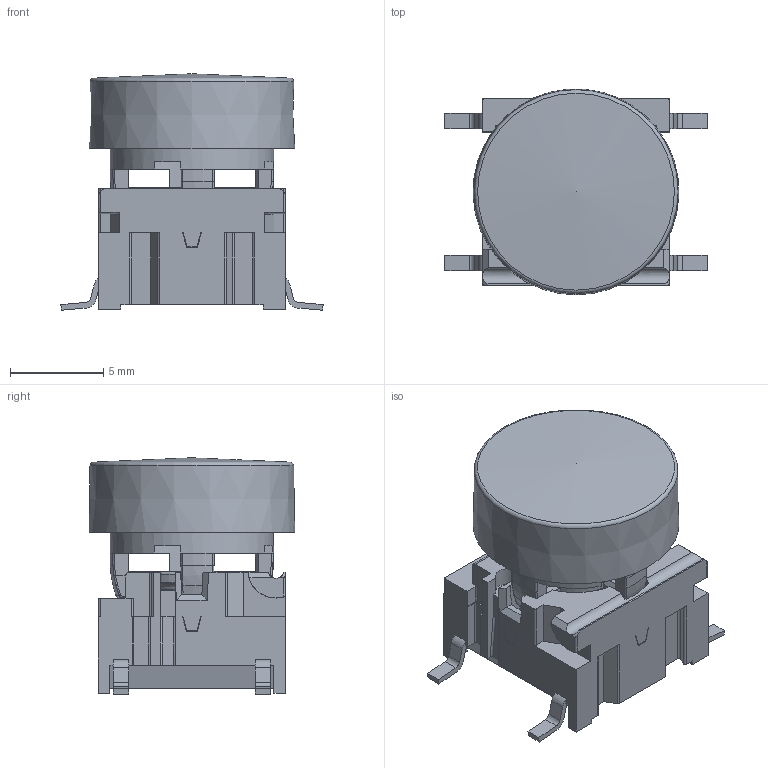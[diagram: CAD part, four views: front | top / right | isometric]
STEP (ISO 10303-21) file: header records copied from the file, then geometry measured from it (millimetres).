
FILE_DESCRIPTION(/* description */ (''),/* implementation_level */ '2;1');
FILE_NAME(/* name */ 'C:\Users\cgh.MEC\Desktop\Traceparts - 3D programserie\STEP filer\SMD\5GSH9+1GAS.stp',/* time_stamp */ '2016-02-16T13:29:04+01:00',/* author */ ('cgh'),/* organization */ (''),/* preprocessor_version */ 'ST-DEVELOPER v15.2',/* originating_system */ 'Autodesk Inventor 2014',/* authorisation */ '');
FILE_SCHEMA (('AUTOMOTIVE_DESIGN { 1 0 10303 214 3 1 1 }'));
Length unit declared in the file: centimetre
Products named in the file (1): cgh
Bounding box: 14.05 x 11.01 x 12.66 mm (x, y, z)
Volume: 679 mm3; surface area: 1514.9 mm2
Topology: 1 solids, 1 shells, 993 faces, 2811 edges, 1839 vertices
Faces by surface type: plane 622, bspline 140, cylinder 135, torus 57, cone 38, sphere 1
Full cylindrical faces by diameter (mm): 0.9 x1, 1 x3, 2.8 x1, 4.73 x1, 6.5 x1, 7.2 x1, 7.44 x1, 8.76 x1
Entity records: 35675 total; most frequent: CARTESIAN_POINT 9774, ORIENTED_EDGE 5550, DIRECTION 4645, EDGE_CURVE 2767, VERTEX_POINT 1824, LINE 1739, VECTOR 1739, AXIS2_PLACEMENT_3D 1453
